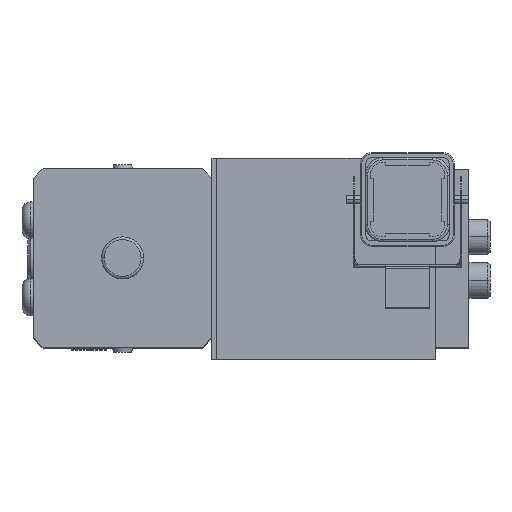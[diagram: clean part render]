
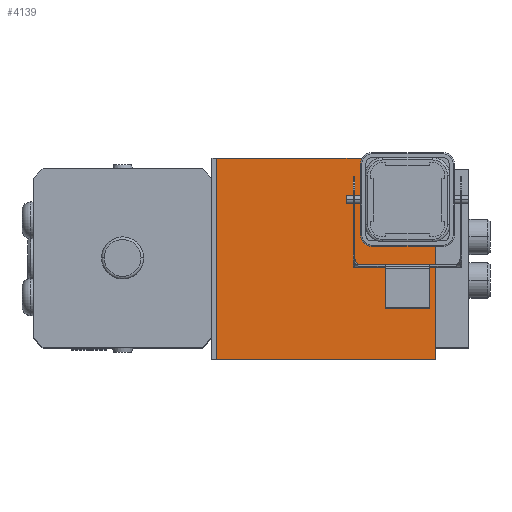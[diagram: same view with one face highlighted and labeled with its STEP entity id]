
A CAD part, top view. The second image highlights one B-rep face of the part: STEP entity #4139.
In plain terms, the highlighted planar face has unit normal (0, 0, 1).
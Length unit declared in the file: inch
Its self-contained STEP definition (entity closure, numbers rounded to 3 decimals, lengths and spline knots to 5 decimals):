
#3829=DIRECTION('',(1.,0.,0.));
#3830=VECTOR('',#3829,2.45);
#3831=CARTESIAN_POINT('',(1.05,-1.125,-2.888));
#3832=LINE('',#3831,#3830);
#3893=DIRECTION('',(0.,1.,0.));
#3894=VECTOR('',#3893,2.25);
#3895=CARTESIAN_POINT('',(3.5,-1.125,-2.888));
#3896=LINE('',#3895,#3894);
#3909=DIRECTION('',(0.,1.,0.));
#3910=VECTOR('',#3909,2.25);
#3911=CARTESIAN_POINT('',(1.05,-1.125,-2.888));
#3912=LINE('',#3911,#3910);
#3933=DIRECTION('',(1.,0.,0.));
#3934=VECTOR('',#3933,2.45);
#3935=CARTESIAN_POINT('',(1.05,1.125,-2.888));
#3936=LINE('',#3935,#3934);
#3941=CARTESIAN_POINT('',(3.5,-1.125,-2.888));
#3943=VERTEX_POINT('',#3941);
#3947=CARTESIAN_POINT('',(3.5,1.125,-2.888));
#3949=VERTEX_POINT('',#3947);
#3957=CARTESIAN_POINT('',(1.05,-1.125,-2.888));
#3958=VERTEX_POINT('',#3957);
#3963=CARTESIAN_POINT('',(1.05,1.125,-2.888));
#3964=VERTEX_POINT('',#3963);
#4126=CARTESIAN_POINT('',(1.,-1.125,-2.888));
#4127=DIRECTION('',(0.,0.,1.));
#4128=DIRECTION('',(1.,0.,0.));
#4129=AXIS2_PLACEMENT_3D('',#4126,#4127,#4128);
#4130=PLANE('',#4129);
#4132=ORIENTED_EDGE('',*,*,#4131,.T.);
#4134=ORIENTED_EDGE('',*,*,#4133,.T.);
#4135=ORIENTED_EDGE('',*,*,#4079,.F.);
#4136=ORIENTED_EDGE('',*,*,#3990,.F.);
#4137=EDGE_LOOP('',(#4132,#4134,#4135,#4136));
#4138=FACE_OUTER_BOUND('',#4137,.F.);
#4139=ADVANCED_FACE('',(#4138),#4130,.T.);
#3990=EDGE_CURVE('',#3958,#3943,#3832,.T.);
#4079=EDGE_CURVE('',#3943,#3949,#3896,.T.);
#4131=EDGE_CURVE('',#3958,#3964,#3912,.T.);
#4133=EDGE_CURVE('',#3964,#3949,#3936,.T.);
